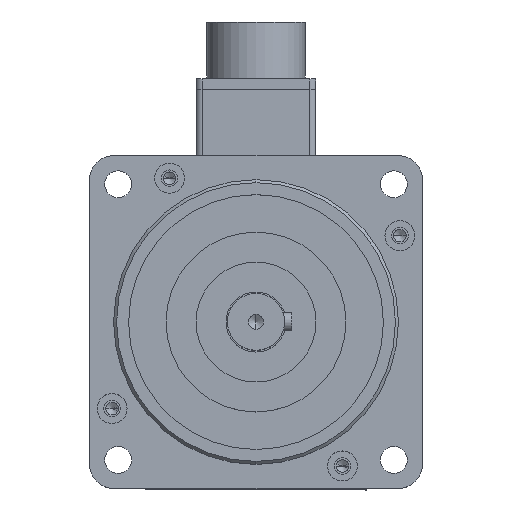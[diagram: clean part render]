
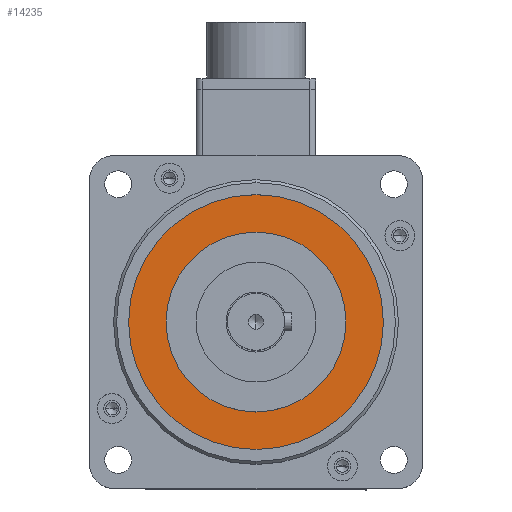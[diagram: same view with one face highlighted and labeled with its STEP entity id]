
A CAD part, top view. The second image highlights one B-rep face of the part: STEP entity #14235.
In plain terms, the highlighted planar face has unit normal (0, 0, 1).
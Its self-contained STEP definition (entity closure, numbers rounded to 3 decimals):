
#1010 = CARTESIAN_POINT ( 'NONE',  ( -79.503, 42.839, 269.2 ) ) ;
#4226 = DIRECTION ( 'NONE',  ( 0., 0., 1. ) ) ;
#4250 = VERTEX_POINT ( 'NONE', #31091 ) ;
#4988 = VERTEX_POINT ( 'NONE', #34847 ) ;
#6055 = DIRECTION ( 'NONE',  ( 0., 0., -1. ) ) ;
#6966 = VERTEX_POINT ( 'NONE', #8862 ) ;
#7791 = EDGE_CURVE ( 'NONE', #4988, #6966, #8290, .T. ) ;
#8290 = CIRCLE ( 'NONE', #17229, 30. ) ;
#8551 = CIRCLE ( 'NONE', #37520, 42.5 ) ;
#8862 = CARTESIAN_POINT ( 'NONE',  ( -109.503, 42.839, 269.2 ) ) ;
#9396 = DIRECTION ( 'NONE',  ( 1., 0., 0. ) ) ;
#10521 = DIRECTION ( 'NONE',  ( 0., 0., -1. ) ) ;
#10579 = AXIS2_PLACEMENT_3D ( 'NONE', #27327, #6055, #9396 ) ;
#11421 = AXIS2_PLACEMENT_3D ( 'NONE', #1010, #37688, #35007 ) ;
#12054 = EDGE_CURVE ( 'NONE', #4250, #34966, #8551, .T. ) ;
#13048 = DIRECTION ( 'NONE',  ( 1., 0., 0. ) ) ;
#13397 = EDGE_LOOP ( 'NONE', ( #36244, #24900 ) ) ;
#13567 = PLANE ( 'NONE',  #11421 ) ;
#13584 = DIRECTION ( 'NONE',  ( 1., 0., 0. ) ) ;
#14235 = ADVANCED_FACE ( 'NONE', ( #21231, #39467 ), #13567, .T. ) ;
#17229 = AXIS2_PLACEMENT_3D ( 'NONE', #22681, #10521, #13584 ) ;
#18651 = ORIENTED_EDGE ( 'NONE', *, *, #7791, .T. ) ;
#21045 = EDGE_LOOP ( 'NONE', ( #18651, #22851 ) ) ;
#21231 = FACE_OUTER_BOUND ( 'NONE', #13397, .T. ) ;
#22681 = CARTESIAN_POINT ( 'NONE',  ( -79.503, 42.839, 269.2 ) ) ;
#22851 = ORIENTED_EDGE ( 'NONE', *, *, #33073, .T. ) ;
#24900 = ORIENTED_EDGE ( 'NONE', *, *, #12054, .T. ) ;
#25622 = CARTESIAN_POINT ( 'NONE',  ( -79.503, 42.839, 269.2 ) ) ;
#27327 = CARTESIAN_POINT ( 'NONE',  ( -79.503, 42.839, 269.2 ) ) ;
#27353 = EDGE_CURVE ( 'NONE', #34966, #4250, #34170, .T. ) ;
#28191 = DIRECTION ( 'NONE',  ( 0., 0., 1. ) ) ;
#30153 = CIRCLE ( 'NONE', #10579, 30. ) ;
#31091 = CARTESIAN_POINT ( 'NONE',  ( -122.003, 42.839, 269.2 ) ) ;
#32010 = AXIS2_PLACEMENT_3D ( 'NONE', #37836, #4226, #35549 ) ;
#33073 = EDGE_CURVE ( 'NONE', #6966, #4988, #30153, .T. ) ;
#34170 = CIRCLE ( 'NONE', #32010, 42.5 ) ;
#34627 = CARTESIAN_POINT ( 'NONE',  ( -37.003, 42.839, 269.2 ) ) ;
#34847 = CARTESIAN_POINT ( 'NONE',  ( -49.503, 42.839, 269.2 ) ) ;
#34966 = VERTEX_POINT ( 'NONE', #34627 ) ;
#35007 = DIRECTION ( 'NONE',  ( 1., 0., 0. ) ) ;
#35549 = DIRECTION ( 'NONE',  ( 1., 0., 0. ) ) ;
#36244 = ORIENTED_EDGE ( 'NONE', *, *, #27353, .T. ) ;
#37520 = AXIS2_PLACEMENT_3D ( 'NONE', #25622, #28191, #13048 ) ;
#37688 = DIRECTION ( 'NONE',  ( 0., 0., 1. ) ) ;
#37836 = CARTESIAN_POINT ( 'NONE',  ( -79.503, 42.839, 269.2 ) ) ;
#39467 = FACE_BOUND ( 'NONE', #21045, .T. ) ;
